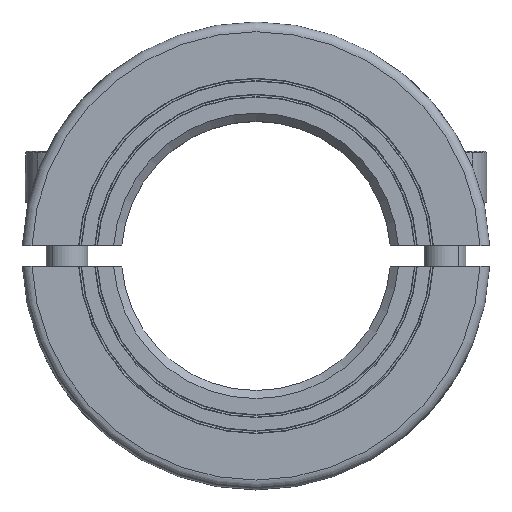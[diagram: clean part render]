
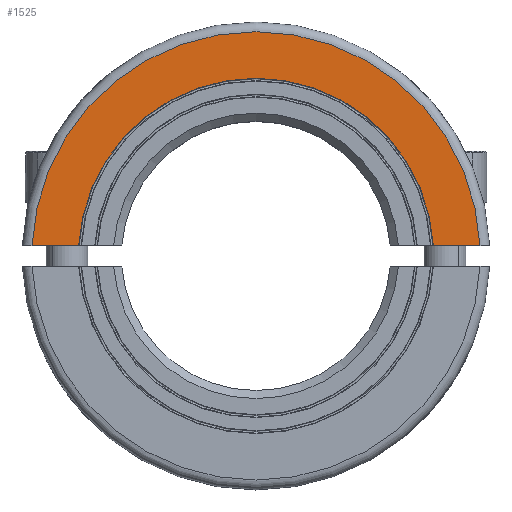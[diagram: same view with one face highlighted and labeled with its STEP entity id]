
A CAD part, top view. The second image highlights one B-rep face of the part: STEP entity #1525.
In plain terms, the highlighted planar face has unit normal (0, 0, 1).
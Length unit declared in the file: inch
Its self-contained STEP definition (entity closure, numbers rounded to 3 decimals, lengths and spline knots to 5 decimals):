
#143=CARTESIAN_POINT('',(1.37574,0.0625,0.74803));
#295=DIRECTION('',(-1.,0.,0.));
#296=VECTOR('',#295,0.28619);
#297=CARTESIAN_POINT('',(-1.08954,0.06253,
0.74803));
#298=LINE('',#297,#296);
#398=CARTESIAN_POINT('',(0.,0.,0.74803));
#399=DIRECTION('',(0.,0.,1.));
#400=DIRECTION('',(0.999,0.045,0.));
#401=AXIS2_PLACEMENT_3D('',#398,#399,#400);
#403=DIRECTION('',(1.,0.,0.));
#404=VECTOR('',#403,0.28619);
#405=CARTESIAN_POINT('',(1.08954,0.06254,0.74803));
#406=LINE('',#405,#404);
#412=CARTESIAN_POINT('',(0.,0.,0.74803));
#413=DIRECTION('',(0.,0.,-1.));
#414=DIRECTION('',(-0.998,0.057,0.));
#415=AXIS2_PLACEMENT_3D('',#412,#413,#414);
#417=CARTESIAN_POINT('',(1.08954,0.06254,0.74803));
#903=VERTEX_POINT('',#143);
#906=VERTEX_POINT('',#417);
#953=CARTESIAN_POINT('',(-1.08954,0.06253,
0.74803));
#954=CARTESIAN_POINT('',(-1.37574,0.0625,
0.74803));
#955=VERTEX_POINT('',#953);
#956=VERTEX_POINT('',#954);
#1513=CARTESIAN_POINT('',(0.,0.,0.74803));
#1514=DIRECTION('',(0.,0.,1.));
#1515=DIRECTION('',(0.707,-0.707,0.));
#1516=AXIS2_PLACEMENT_3D('',#1513,#1514,#1515);
#1517=PLANE('',#1516);
#1519=ORIENTED_EDGE('',*,*,#1518,.F.);
#1520=ORIENTED_EDGE('',*,*,#1479,.T.);
#1521=ORIENTED_EDGE('',*,*,#1157,.F.);
#1522=ORIENTED_EDGE('',*,*,#1180,.F.);
#1523=EDGE_LOOP('',(#1519,#1520,#1521,#1522));
#1524=FACE_OUTER_BOUND('',#1523,.F.);
#402=CIRCLE('',#401,1.37717);
#416=CIRCLE('',#415,1.09134);
#1157=EDGE_CURVE('',#903,#956,#402,.T.);
#1180=EDGE_CURVE('',#906,#903,#406,.T.);
#1479=EDGE_CURVE('',#955,#956,#298,.T.);
#1518=EDGE_CURVE('',#955,#906,#416,.T.);
#1525=ADVANCED_FACE('',(#1524),#1517,.T.);
